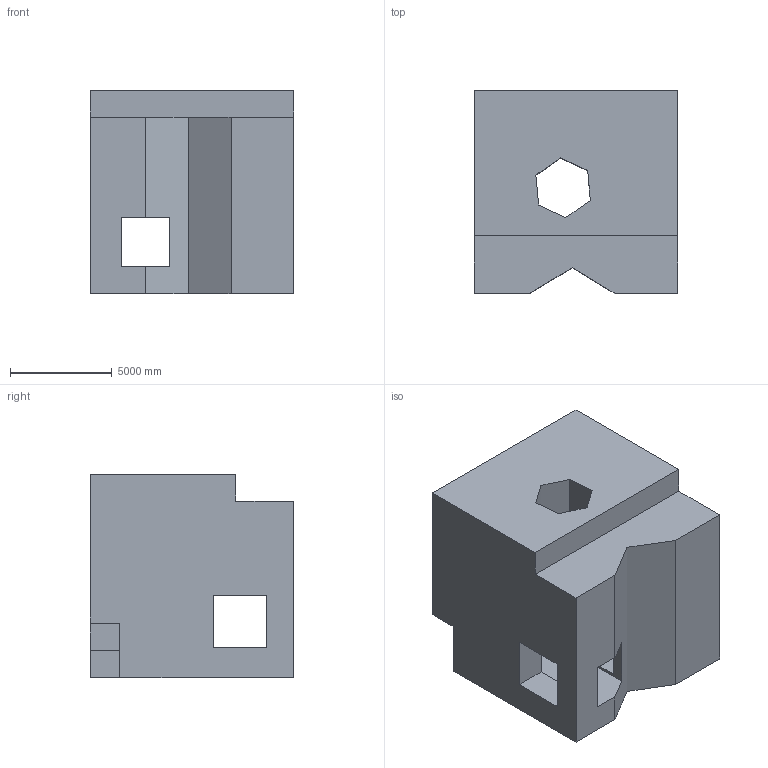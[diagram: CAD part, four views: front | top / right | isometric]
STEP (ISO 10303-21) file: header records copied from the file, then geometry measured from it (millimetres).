
FILE_DESCRIPTION (( 'STEP AP203' ), '1' );
FILE_NAME ('631.STEP', '2022-07-29T12:11:57', ( 'user' ), ( '' ), 'SwSTEP 2.0', 'SolidWorks 2021', '' );
FILE_SCHEMA (( 'CONFIG_CONTROL_DESIGN' ));
Length unit declared in the file: centimetre
Products named in the file (1): 631
Bounding box: 10000 x 10000 x 10000 mm (x, y, z)
Volume: 748944978203.9 mm3; surface area: 796978884.7 mm2
Topology: 1 solids, 1 shells, 37 faces, 129 edges, 86 vertices
Faces by surface type: plane 36, cylinder 1
Entity records: 1466 total; most frequent: ORIENTED_EDGE 258, CARTESIAN_POINT 253, DIRECTION 207, EDGE_CURVE 129, VECTOR 127, LINE 127, VERTEX_POINT 86, EDGE_LOOP 41
